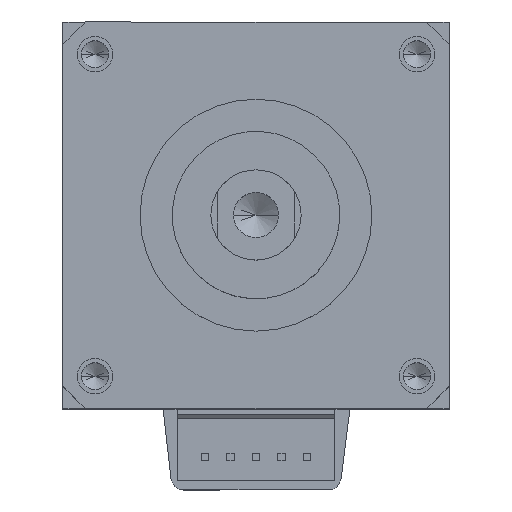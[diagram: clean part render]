
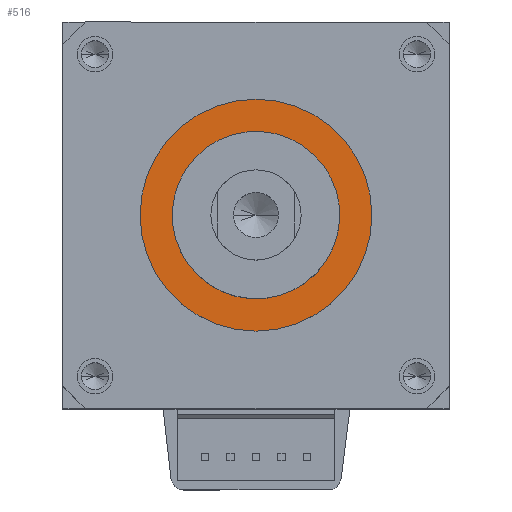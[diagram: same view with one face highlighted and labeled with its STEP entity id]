
A CAD part, top view. The second image highlights one B-rep face of the part: STEP entity #516.
In plain terms, the highlighted planar face has unit normal (0, 0, 1) as drawn and (0, 0, -1) by its records, which use the part's own axes.
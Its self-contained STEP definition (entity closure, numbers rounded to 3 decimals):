
#20 = EDGE_LOOP ( 'NONE', ( #3143, #2467 ) ) ;
#138 = PLANE ( 'NONE',  #2408 ) ;
#491 = AXIS2_PLACEMENT_3D ( 'NONE', #4012, #531, #4001 ) ;
#498 = DIRECTION ( 'NONE',  ( 1., 0., 0. ) ) ;
#516 = ADVANCED_FACE ( 'NONE', ( #4339, #2998 ), #138, .T. ) ;
#531 = DIRECTION ( 'NONE',  ( 0., 0., -1. ) ) ;
#621 = VERTEX_POINT ( 'NONE', #4738 ) ;
#945 = CARTESIAN_POINT ( 'NONE',  ( 0., 0., -5.5 ) ) ;
#1014 = ORIENTED_EDGE ( 'NONE', *, *, #2619, .F. ) ;
#1255 = DIRECTION ( 'NONE',  ( 0., 0., -1. ) ) ;
#1300 = DIRECTION ( 'NONE',  ( 1., 0., 0. ) ) ;
#1441 = CARTESIAN_POINT ( 'NONE',  ( 8., 0., -5.5 ) ) ;
#1467 = AXIS2_PLACEMENT_3D ( 'NONE', #2738, #1255, #498 ) ;
#1535 = CARTESIAN_POINT ( 'NONE',  ( -8., 0., -5.5 ) ) ;
#1779 = EDGE_LOOP ( 'NONE', ( #3240, #1014 ) ) ;
#1833 = CIRCLE ( 'NONE', #491, 8. ) ;
#1903 = CARTESIAN_POINT ( 'NONE',  ( 0., 0., -5.5 ) ) ;
#2304 = CARTESIAN_POINT ( 'NONE',  ( 0., 0., -5.5 ) ) ;
#2408 = AXIS2_PLACEMENT_3D ( 'NONE', #945, #4394, #1300 ) ;
#2467 = ORIENTED_EDGE ( 'NONE', *, *, #4766, .T. ) ;
#2619 = EDGE_CURVE ( 'NONE', #3882, #2835, #1833, .T. ) ;
#2738 = CARTESIAN_POINT ( 'NONE',  ( 0., 0., -5.5 ) ) ;
#2835 = VERTEX_POINT ( 'NONE', #1441 ) ;
#2998 = FACE_OUTER_BOUND ( 'NONE', #20, .T. ) ;
#3143 = ORIENTED_EDGE ( 'NONE', *, *, #3170, .T. ) ;
#3170 = EDGE_CURVE ( 'NONE', #4524, #621, #4276, .T. ) ;
#3240 = ORIENTED_EDGE ( 'NONE', *, *, #4025, .F. ) ;
#3409 = CIRCLE ( 'NONE', #1467, 8. ) ;
#3530 = DIRECTION ( 'NONE',  ( 1., 0., 0. ) ) ;
#3775 = AXIS2_PLACEMENT_3D ( 'NONE', #2304, #3896, #3530 ) ;
#3824 = DIRECTION ( 'NONE',  ( 1., 0., 0. ) ) ;
#3882 = VERTEX_POINT ( 'NONE', #1535 ) ;
#3896 = DIRECTION ( 'NONE',  ( 0., 0., -1. ) ) ;
#3920 = CIRCLE ( 'NONE', #4431, 18. ) ;
#4001 = DIRECTION ( 'NONE',  ( 1., 0., 0. ) ) ;
#4012 = CARTESIAN_POINT ( 'NONE',  ( 0., 0., -5.5 ) ) ;
#4025 = EDGE_CURVE ( 'NONE', #2835, #3882, #3409, .T. ) ;
#4276 = CIRCLE ( 'NONE', #3775, 18. ) ;
#4339 = FACE_BOUND ( 'NONE', #1779, .T. ) ;
#4394 = DIRECTION ( 'NONE',  ( 0., 0., -1. ) ) ;
#4431 = AXIS2_PLACEMENT_3D ( 'NONE', #1903, #4984, #3824 ) ;
#4524 = VERTEX_POINT ( 'NONE', #4590 ) ;
#4590 = CARTESIAN_POINT ( 'NONE',  ( -18., 0., -5.5 ) ) ;
#4738 = CARTESIAN_POINT ( 'NONE',  ( 18., 0., -5.5 ) ) ;
#4766 = EDGE_CURVE ( 'NONE', #621, #4524, #3920, .T. ) ;
#4984 = DIRECTION ( 'NONE',  ( 0., 0., -1. ) ) ;
